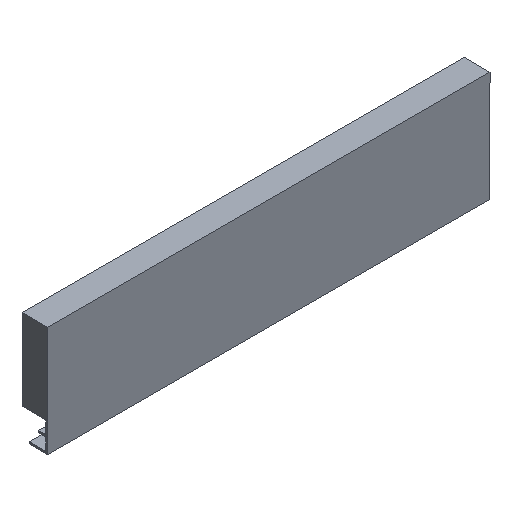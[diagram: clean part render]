
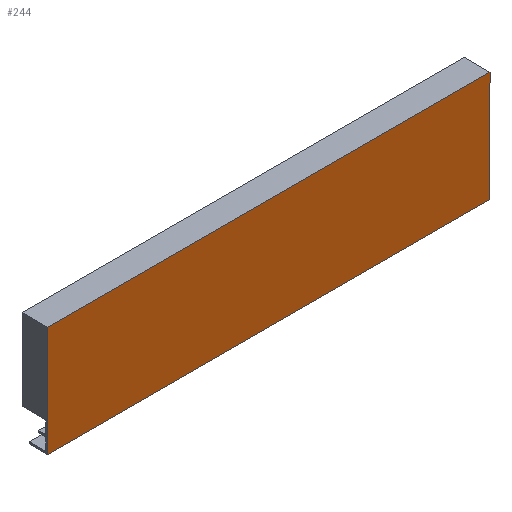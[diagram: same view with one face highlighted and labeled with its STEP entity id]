
A CAD part, isometric view. The second image highlights one B-rep face of the part: STEP entity #244.
In plain terms, the highlighted planar face has unit normal (0, -1, 0).
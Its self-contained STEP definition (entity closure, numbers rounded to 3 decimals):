
#7 = VECTOR ( 'NONE', #442, 1000. ) ;
#8 = LINE ( 'NONE', #441, #7 ) ;
#38 = FACE_OUTER_BOUND ( 'NONE', #129, .T. ) ;
#81 = ORIENTED_EDGE ( 'NONE', *, *, #316, .T. ) ;
#82 = ORIENTED_EDGE ( 'NONE', *, *, #268, .F. ) ;
#83 = ORIENTED_EDGE ( 'NONE', *, *, #321, .F. ) ;
#84 = ORIENTED_EDGE ( 'NONE', *, *, #286, .T. ) ;
#129 = EDGE_LOOP ( 'NONE', ( #81, #82, #83, #84 ) ) ;
#155 = LINE ( 'NONE', #464, #163 ) ;
#163 = VECTOR ( 'NONE', #468, 1000. ) ;
#193 = LINE ( 'NONE', #503, #194 ) ;
#194 = VECTOR ( 'NONE', #504, 1000. ) ;
#199 = LINE ( 'NONE', #509, #200 ) ;
#200 = VECTOR ( 'NONE', #510, 1000. ) ;
#219 = CARTESIAN_POINT ( 'NONE',  ( 135.5, -5.5, -17.9 ) ) ;
#220 = VERTEX_POINT ( 'NONE', #349 ) ;
#224 = VERTEX_POINT ( 'NONE', #219 ) ;
#225 = VERTEX_POINT ( 'NONE', #347 ) ;
#244 = ADVANCED_FACE ( 'NONE', ( #38 ), #369, .F. ) ;
#268 = EDGE_CURVE ( 'NONE', #220, #225, #8, .T. ) ;
#272 = AXIS2_PLACEMENT_3D ( 'NONE', #368, #371, #372 ) ;
#286 = EDGE_CURVE ( 'NONE', #334, #224, #155, .T. ) ;
#316 = EDGE_CURVE ( 'NONE', #224, #225, #193, .T. ) ;
#321 = EDGE_CURVE ( 'NONE', #334, #220, #199, .T. ) ;
#334 = VERTEX_POINT ( 'NONE', #517 ) ;
#347 = CARTESIAN_POINT ( 'NONE',  ( 135.5, -5.5, 49.7 ) ) ;
#349 = CARTESIAN_POINT ( 'NONE',  ( -135.5, -5.5, 49.7 ) ) ;
#368 = CARTESIAN_POINT ( 'NONE',  ( -135.5, -5.5, -17.9 ) ) ;
#369 = PLANE ( 'NONE',  #272 ) ;
#371 = DIRECTION ( 'NONE',  ( 0., 1., 0. ) ) ;
#372 = DIRECTION ( 'NONE',  ( 0., 0., -1. ) ) ;
#441 = CARTESIAN_POINT ( 'NONE',  ( -135.5, -5.5, 49.7 ) ) ;
#442 = DIRECTION ( 'NONE',  ( 1., 0., 0. ) ) ;
#464 = CARTESIAN_POINT ( 'NONE',  ( -135.5, -5.5, -17.9 ) ) ;
#468 = DIRECTION ( 'NONE',  ( 1., 0., 0. ) ) ;
#503 = CARTESIAN_POINT ( 'NONE',  ( 135.5, -5.5, -17.9 ) ) ;
#504 = DIRECTION ( 'NONE',  ( 0., 0., 1. ) ) ;
#509 = CARTESIAN_POINT ( 'NONE',  ( -135.5, -5.5, -17.9 ) ) ;
#510 = DIRECTION ( 'NONE',  ( 0., 0., 1. ) ) ;
#517 = CARTESIAN_POINT ( 'NONE',  ( -135.5, -5.5, -17.9 ) ) ;
